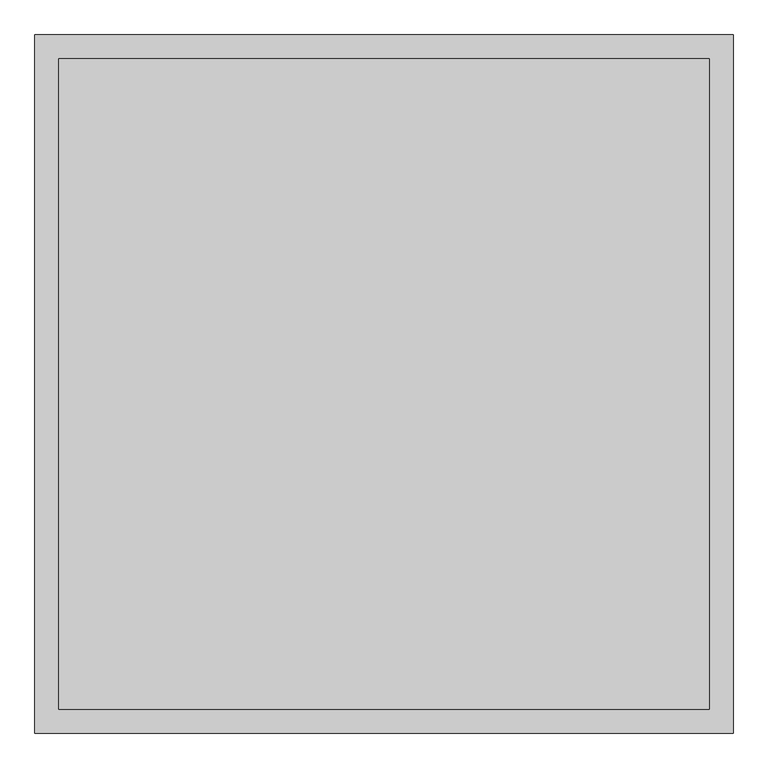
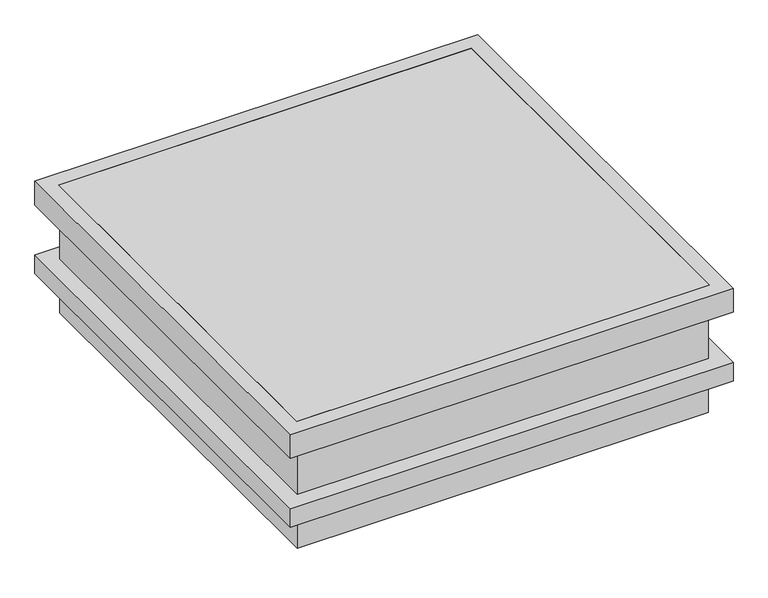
"""IFC4 building model written with IfcOpenShell, lengths in millimetres: proxy geometry, Skydome 4 : Skydome 110x110."""

from ifc_helpers import new_model, si_unit, frame, origin, place, context, project, spatial, polyline, outline, extrude, faceted_brep, source, transform, mapped, element, save


def generic_models_7168af84(model_context):
    return source(origin(), model_context, "Body", "SolidModel", [
        faceted_brep([(522.7, 522.7, 0.0), (522.7, -522.7, 0.0), (-522.7, -522.7, 0.0), (-522.7, 522.7, 0.0), (482.7, 482.7, 0.0), (-482.7, 482.7, 0.0), (-482.7, -482.7, 0.0), (482.7, -482.7, 0.0), (522.7, 522.7, 95.23442), (522.7, -522.7, 95.23442), (522.7, -522.7, 280.0), (522.7, -522.7, 145.23442), (522.7, 522.7, 145.23442), (522.7, 522.7, 280.0), (-522.7, -522.7, 95.23442), (-522.7, -522.7, 280.0), (-522.7, -522.7, 145.23442), (-522.7, 522.7, 95.23442), (-522.7, 522.7, 280.0), (-522.7, 522.7, 145.23442), (482.7, -482.7, 318.1), (482.7, 482.7, 318.1), (-482.7, -482.7, 318.1), (-482.7, 482.7, 318.1), (562.7, 562.7, 145.23442), (-562.7, 562.7, 145.23442), (-562.7, -562.7, 145.23442), (562.7, -562.7, 145.23442), (562.7, 562.7, 95.23442), (562.7, -562.7, 95.23442), (-562.7, -562.7, 95.23442), (-562.7, 562.7, 95.23442), (562.7, 562.7, 280.0), (562.7, 562.7, 343.5), (562.7, -562.7, 343.5), (562.7, -562.7, 280.0), (524.6, 524.6, 343.5), (524.6, 524.6, 318.1), (524.6, -524.6, 318.1), (524.6, -524.6, 343.5), (-562.7, -562.7, 343.5), (-562.7, -562.7, 280.0), (-524.6, -524.6, 318.1), (-524.6, -524.6, 343.5), (-562.7, 562.7, 343.5), (-562.7, 562.7, 280.0), (-524.6, 524.6, 318.1), (-524.6, 524.6, 343.5)], [[[0, 1, 2, 3], [4, 5, 6, 7]], [[1, 0, 8, 9]], [[10, 11, 12, 13]], [[2, 1, 9, 14]], [[11, 10, 15, 16]], [[3, 2, 14, 17]], [[16, 15, 18, 19]], [[0, 3, 17, 8]], [[19, 18, 13, 12]], [[4, 7, 20, 21]], [[20, 7, 6, 22]], [[22, 6, 5, 23]], [[23, 5, 4, 21]], [[24, 25, 26, 27], [12, 11, 16, 19]], [[28, 29, 30, 31], [9, 8, 17, 14]], [[24, 27, 29, 28]], [[27, 26, 30, 29]], [[26, 25, 31, 30]], [[25, 24, 28, 31]], [[32, 33, 34, 35]], [[36, 37, 38, 39]], [[35, 34, 40, 41]], [[39, 38, 42, 43]], [[41, 40, 44, 45]], [[43, 42, 46, 47]], [[34, 33, 44, 40], [36, 39, 43, 47]], [[33, 32, 45, 44]], [[32, 35, 41, 45], [10, 13, 18, 15]], [[37, 36, 47, 46]], [[38, 37, 46, 42], [21, 20, 22, 23]]]),
        extrude(outline(polyline([(524.6, 524.6), (524.6, -524.6), (-524.6, -524.6), (-524.6, 524.6), (524.6, 524.6)])), frame((0.0, 0.0, 318.1), z_axis=(0.0, 0.0, 1.0), x_axis=(1.0, 0.0, 0.0)), (0.0, 0.0, 1.0), 25.4),
    ])


if __name__ == "__main__":
    model = new_model("IFC4")
    model_context = context("Model", 3, world=origin())
    ifc_project = project(units=[si_unit("LENGTHUNIT", "METRE", prefix="MILLI")], contexts=[model_context])
    site = spatial("IfcSite", under=ifc_project)
    building = spatial("IfcBuilding", under=site)
    placement = place(None, origin())
    generic_models_shape = generic_models_7168af84(model_context)
    element("IfcBuildingElementProxy", 1, Name="Skydome 4 : Skydome 110x110", ObjectType="Skydome 4 : Skydome 110x110", at=placement, inside=building, context=model_context, shape_type="MappedRepresentation", body=[
        mapped(generic_models_shape, transform((0.0, 0.0, 0.0), x_axis=(1.0, 0.0, 0.0), y_axis=(0.0, 1.0, 0.0), z_axis=(0.0, 0.0, 1.0))),
    ])
    save(model, "model.ifc")
